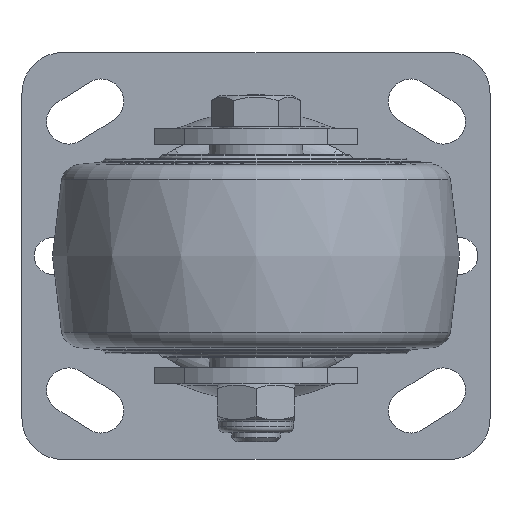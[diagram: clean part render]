
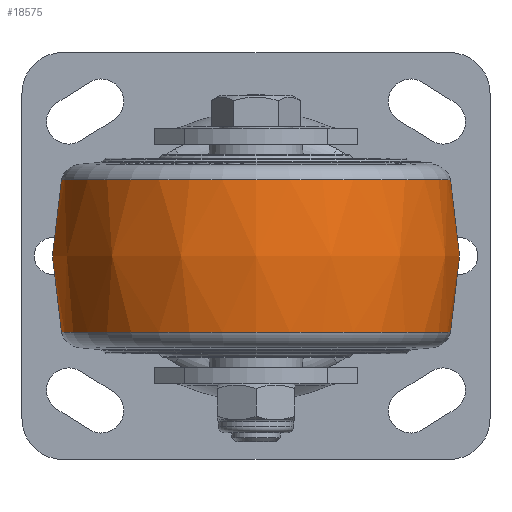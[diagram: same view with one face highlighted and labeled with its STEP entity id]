
A CAD part, front view. The second image highlights one B-rep face of the part: STEP entity #18575.
In plain terms, the highlighted free-form (B-spline) face has degree [2, 2] with [3, 9] control points.
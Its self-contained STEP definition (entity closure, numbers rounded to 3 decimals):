
#23=(
BOUNDED_SURFACE()
B_SPLINE_SURFACE(2,2,((#36082,#36083,#36084,#36085,#36086,#36087,#36088,
#36089,#36090),(#36091,#36092,#36093,#36094,#36095,#36096,#36097,#36098,
#36099),(#36100,#36101,#36102,#36103,#36104,#36105,#36106,#36107,#36108)),
 .UNSPECIFIED.,.F.,.T.,.F.)
B_SPLINE_SURFACE_WITH_KNOTS((3,3),(3,2,2,2,3),(-0.236,0.236),
(-3.142,-1.571,0.,1.571,3.142),
 .UNSPECIFIED.)
GEOMETRIC_REPRESENTATION_ITEM()
RATIONAL_B_SPLINE_SURFACE(((1.,0.707,1.,0.707,1.,
0.707,1.,0.707,1.),(0.972,0.687,
0.972,0.687,0.972,0.687,
0.972,0.687,0.972),(1.,0.707,
1.,0.707,1.,0.707,1.,0.707,1.)))
REPRESENTATION_ITEM('')
SURFACE()
);
#3313=FACE_OUTER_BOUND('',#4457,.T.);
#4457=EDGE_LOOP('',(#17404,#17405,#17406,#17407));
#7349=CIRCLE('',#19424,47.779);
#7351=CIRCLE('',#19426,47.779);
#7352=CIRCLE('',#19427,80.);
#9193=VERTEX_POINT('',#36079);
#9194=VERTEX_POINT('',#36109);
#11938=EDGE_CURVE('',#9193,#9193,#7349,.T.);
#11940=EDGE_CURVE('',#9194,#9194,#7351,.T.);
#11941=EDGE_CURVE('',#9194,#9193,#7352,.T.);
#17404=ORIENTED_EDGE('',*,*,#11940,.F.);
#17405=ORIENTED_EDGE('',*,*,#11941,.T.);
#17406=ORIENTED_EDGE('',*,*,#11938,.T.);
#17407=ORIENTED_EDGE('',*,*,#11941,.F.);
#18575=ADVANCED_FACE('',(#3313),#23,.F.);
#19424=AXIS2_PLACEMENT_3D('',#36080,#22431,#22432);
#19426=AXIS2_PLACEMENT_3D('',#36110,#22435,#22436);
#19427=AXIS2_PLACEMENT_3D('',#36111,#22437,#22438);
#22431=DIRECTION('center_axis',(0.,0.,1.));
#22432=DIRECTION('ref_axis',(0.,-1.,0.));
#22435=DIRECTION('center_axis',(0.,0.,1.));
#22436=DIRECTION('ref_axis',(0.,-1.,0.));
#22437=DIRECTION('center_axis',(-1.,0.,0.));
#22438=DIRECTION('ref_axis',(0.,1.,0.));
#36079=CARTESIAN_POINT('',(0.,-44.221,-18.721));
#36080=CARTESIAN_POINT('Origin',(0.,-92.,-18.721));
#36082=CARTESIAN_POINT('Ctrl Pts',(0.,-44.221,
-18.721));
#36083=CARTESIAN_POINT('Ctrl Pts',(-47.779,-44.221,
-18.721));
#36084=CARTESIAN_POINT('Ctrl Pts',(-47.779,-92.,-18.721));
#36085=CARTESIAN_POINT('Ctrl Pts',(-47.779,-139.779,
-18.721));
#36086=CARTESIAN_POINT('Ctrl Pts',(0.,-139.779,
-18.721));
#36087=CARTESIAN_POINT('Ctrl Pts',(47.779,-139.779,-18.721));
#36088=CARTESIAN_POINT('Ctrl Pts',(47.779,-92.,-18.721));
#36089=CARTESIAN_POINT('Ctrl Pts',(47.779,-44.221,-18.721));
#36090=CARTESIAN_POINT('Ctrl Pts',(0.,-44.221,
-18.721));
#36091=CARTESIAN_POINT('Ctrl Pts',(0.,-39.715,
0.));
#36092=CARTESIAN_POINT('Ctrl Pts',(-52.285,-39.715,
0.));
#36093=CARTESIAN_POINT('Ctrl Pts',(-52.285,-92.,0.));
#36094=CARTESIAN_POINT('Ctrl Pts',(-52.285,-144.285,
0.));
#36095=CARTESIAN_POINT('Ctrl Pts',(0.,-144.285,
0.));
#36096=CARTESIAN_POINT('Ctrl Pts',(52.285,-144.285,0.));
#36097=CARTESIAN_POINT('Ctrl Pts',(52.285,-92.,0.));
#36098=CARTESIAN_POINT('Ctrl Pts',(52.285,-39.715,0.));
#36099=CARTESIAN_POINT('Ctrl Pts',(0.,-39.715,
0.));
#36100=CARTESIAN_POINT('Ctrl Pts',(0.,-44.221,
18.721));
#36101=CARTESIAN_POINT('Ctrl Pts',(-47.779,-44.221,
18.721));
#36102=CARTESIAN_POINT('Ctrl Pts',(-47.779,-92.,18.721));
#36103=CARTESIAN_POINT('Ctrl Pts',(-47.779,-139.779,
18.721));
#36104=CARTESIAN_POINT('Ctrl Pts',(0.,-139.779,
18.721));
#36105=CARTESIAN_POINT('Ctrl Pts',(47.779,-139.779,18.721));
#36106=CARTESIAN_POINT('Ctrl Pts',(47.779,-92.,18.721));
#36107=CARTESIAN_POINT('Ctrl Pts',(47.779,-44.221,18.721));
#36108=CARTESIAN_POINT('Ctrl Pts',(0.,-44.221,
18.721));
#36109=CARTESIAN_POINT('',(0.,-44.221,18.721));
#36110=CARTESIAN_POINT('Origin',(0.,-92.,18.721));
#36111=CARTESIAN_POINT('Origin',(0.,-122.,0.));
